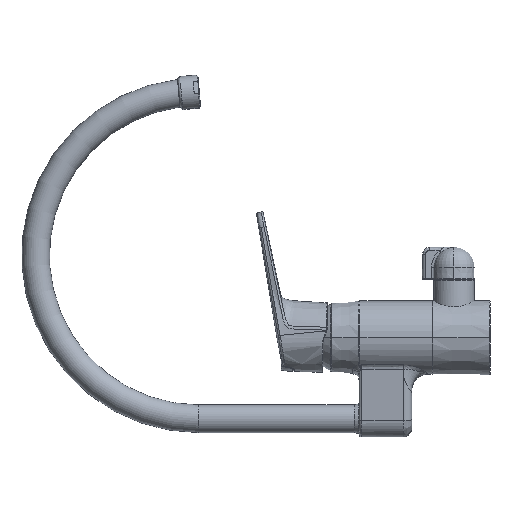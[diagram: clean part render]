
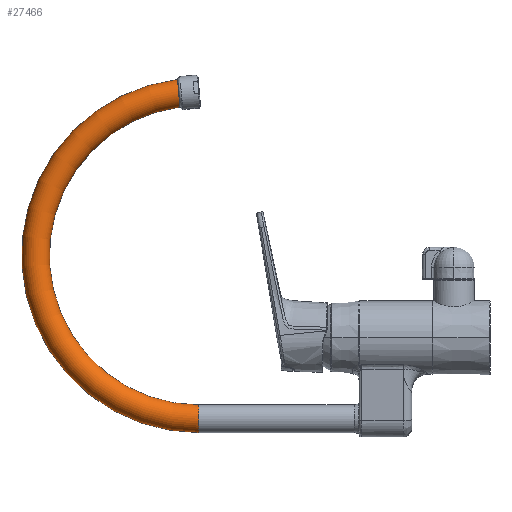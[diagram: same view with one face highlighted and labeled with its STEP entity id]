
A CAD part, left-side view. The second image highlights one B-rep face of the part: STEP entity #27466.
In plain terms, the highlighted toroidal (fillet/blend) face has major radius 118 mm and minor radius 10 mm.
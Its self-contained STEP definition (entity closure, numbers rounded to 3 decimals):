
#95 = CARTESIAN_POINT ( 'NONE',  ( -417.089, 534.69, 695.5 ) ) ;
#121 = AXIS2_PLACEMENT_3D ( 'NONE', #27822, #25456, #11830 ) ;
#225 = FACE_OUTER_BOUND ( 'NONE', #20181, .T. ) ;
#520 = CARTESIAN_POINT ( 'NONE',  ( -420.985, 533.94, 686.919 ) ) ;
#613 = CARTESIAN_POINT ( 'NONE',  ( -418.937, 533.465, 681.495 ) ) ;
#907 = CARTESIAN_POINT ( 'NONE',  ( -414.524, 533.181, 678.246 ) ) ;
#1713 = EDGE_CURVE ( 'NONE', #7960, #18032, #11607, .T. ) ;
#2371 = CARTESIAN_POINT ( 'NONE',  ( -411.64, 534.868, 697.529 ) ) ;
#3401 = CARTESIAN_POINT ( 'NONE',  ( -410.986, 519.378, 462.486 ) ) ;
#3455 = DIRECTION ( 'NONE',  ( 0., 0., 1. ) ) ;
#5055 = CARTESIAN_POINT ( 'NONE',  ( -420.459, 533.716, 684.367 ) ) ;
#5148 = CARTESIAN_POINT ( 'NONE',  ( -420.649, 533.771, 684.991 ) ) ;
#5253 = CARTESIAN_POINT ( 'NONE',  ( -411.312, 533.125, 677.607 ) ) ;
#5341 = CARTESIAN_POINT ( 'NONE',  ( -410.986, 519.378, 452.486 ) ) ;
#5448 = CARTESIAN_POINT ( 'NONE',  ( -413.583, 533.154, 677.944 ) ) ;
#5843 = DIRECTION ( 'NONE',  ( -1., 0., 0. ) ) ;
#6628 = CARTESIAN_POINT ( 'NONE',  ( -420.986, 534.053, 688.219 ) ) ;
#6813 = CARTESIAN_POINT ( 'NONE',  ( -416.276, 534.738, 696.042 ) ) ;
#7199 = CARTESIAN_POINT ( 'NONE',  ( -412.296, 534.862, 697.464 ) ) ;
#7329 = CARTESIAN_POINT ( 'NONE',  ( -412.293, 533.132, 677.687 ) ) ;
#7519 = CARTESIAN_POINT ( 'NONE',  ( -412.62, 533.136, 677.736 ) ) ;
#7617 = CARTESIAN_POINT ( 'NONE',  ( -419.962, 533.611, 683.169 ) ) ;
#7725 = CARTESIAN_POINT ( 'NONE',  ( -417.833, 533.361, 680.304 ) ) ;
#7960 = VERTEX_POINT ( 'NONE', #8208 ) ;
#8159 = ORIENTED_EDGE ( 'NONE', *, *, #17526, .F. ) ;
#8208 = CARTESIAN_POINT ( 'NONE',  ( -410.986, 534.869, 697.545 ) ) ;
#8880 = CARTESIAN_POINT ( 'NONE',  ( -420.103, 534.357, 691.685 ) ) ;
#9064 = CARTESIAN_POINT ( 'NONE',  ( -414.208, 534.825, 697.036 ) ) ;
#9129 = CIRCLE ( 'NONE', #18799, 10. ) ;
#9255 = CARTESIAN_POINT ( 'NONE',  ( -415.117, 534.792, 696.661 ) ) ;
#9348 = CARTESIAN_POINT ( 'NONE',  ( -415.996, 534.752, 696.21 ) ) ;
#9453 = CARTESIAN_POINT ( 'NONE',  ( -415.417, 534.779, 696.519 ) ) ;
#9493 = CARTESIAN_POINT ( 'NONE',  ( -410.986, 533.125, 677.607 ) ) ;
#9586 = CARTESIAN_POINT ( 'NONE',  ( -418.523, 533.421, 680.993 ) ) ;
#9615 = EDGE_CURVE ( 'NONE', #21097, #11880, #16252, .T. ) ;
#9873 = DIRECTION ( 'NONE',  ( 0., 0., 1. ) ) ;
#10060 = ORIENTED_EDGE ( 'NONE', *, *, #1713, .T. ) ;
#10554 = ORIENTED_EDGE ( 'NONE', *, *, #9615, .T. ) ;
#11524 = CARTESIAN_POINT ( 'NONE',  ( -411.312, 534.869, 697.545 ) ) ;
#11607 = CIRCLE ( 'NONE', #27948, 128. ) ;
#11621 = CARTESIAN_POINT ( 'NONE',  ( -413.585, 534.841, 697.224 ) ) ;
#11755 = CARTESIAN_POINT ( 'NONE',  ( -420.24, 533.663, 683.756 ) ) ;
#11830 = DIRECTION ( 'NONE',  ( 0., -1., 0. ) ) ;
#11880 = VERTEX_POINT ( 'NONE', #23692 ) ;
#11918 = ORIENTED_EDGE ( 'NONE', *, *, #16905, .T. ) ;
#12050 = CARTESIAN_POINT ( 'NONE',  ( -416.818, 533.288, 679.472 ) ) ;
#12441 = B_SPLINE_CURVE_WITH_KNOTS ( 'NONE', 3,
 ( #13147, #6628, #15426, #22418, #24494, #8880, #13239, #29037, #24675, #22982, #16169, #27406, #95, #6813, #9348, #9453, #9255, #9064, #11621, #20706, #7199, #2371, #11524, #25045 ),
 .UNSPECIFIED., .F., .F.,
 ( 4, 2, 2, 2, 2, 2, 2, 2, 2, 2, 2, 4 ),
 ( 0.012, 0.014, 0.016, 0.017, 0.018, 0.02, 0.022, 0.023, 0.024, 0.026, 0.027, 0.028 ),
 .UNSPECIFIED. ) ;
#13147 = CARTESIAN_POINT ( 'NONE',  ( -420.986, 533.996, 687.569 ) ) ;
#13239 = CARTESIAN_POINT ( 'NONE',  ( -419.961, 534.383, 691.984 ) ) ;
#14043 = CARTESIAN_POINT ( 'NONE',  ( -420.922, 533.883, 686.274 ) ) ;
#14330 = CARTESIAN_POINT ( 'NONE',  ( -420.73, 533.799, 685.311 ) ) ;
#14810 = CARTESIAN_POINT ( 'NONE',  ( -410.986, 519.378, 570.486 ) ) ;
#14928 = CARTESIAN_POINT ( 'NONE',  ( -410.986, 519.378, 570.486 ) ) ;
#15151 = VERTEX_POINT ( 'NONE', #3401 ) ;
#15426 = CARTESIAN_POINT ( 'NONE',  ( -420.922, 534.111, 688.88 ) ) ;
#15437 = ORIENTED_EDGE ( 'NONE', *, *, #17129, .F. ) ;
#16169 = CARTESIAN_POINT ( 'NONE',  ( -418.528, 534.573, 694.156 ) ) ;
#16252 = B_SPLINE_CURVE_WITH_KNOTS ( 'NONE', 3,
 ( #9493, #5253, #20845, #7329, #7519, #18984, #5448, #18877, #907, #16393, #25280, #12050, #25380, #18688, #7725, #9586, #613, #25669, #27841, #7617, #11755, #5055, #5148, #14330, #14043, #520, #16494 ),
 .UNSPECIFIED., .F., .F.,
 ( 4, 2, 2, 2, 2, 2, 2, 2, 2, 2, 1, 2, 2, 4 ),
 ( 0.059, 0.06, 0.061, 0.062, 0.063, 0.065, 0.066, 0.067, 0.069, 0.07, 0.071, 0.072, 0.073, 0.075 ),
 .UNSPECIFIED. ) ;
#16297 = DIRECTION ( 'NONE',  ( 0., -1., 0. ) ) ;
#16393 = CARTESIAN_POINT ( 'NONE',  ( -415.43, 533.214, 678.622 ) ) ;
#16494 = CARTESIAN_POINT ( 'NONE',  ( -420.986, 533.996, 687.569 ) ) ;
#16905 = EDGE_CURVE ( 'NONE', #11880, #7960, #12441, .T. ) ;
#16984 = DIRECTION ( 'NONE',  ( -1., 0., 0. ) ) ;
#17129 = EDGE_CURVE ( 'NONE', #15151, #18032, #9129, .T. ) ;
#17526 = EDGE_CURVE ( 'NONE', #21097, #15151, #29280, .T. ) ;
#18032 = VERTEX_POINT ( 'NONE', #20935 ) ;
#18688 = CARTESIAN_POINT ( 'NONE',  ( -417.591, 533.342, 680.084 ) ) ;
#18799 = AXIS2_PLACEMENT_3D ( 'NONE', #5341, #16297, #9873 ) ;
#18877 = CARTESIAN_POINT ( 'NONE',  ( -414.212, 533.171, 678.135 ) ) ;
#18984 = CARTESIAN_POINT ( 'NONE',  ( -413.264, 533.147, 677.864 ) ) ;
#19076 = DIRECTION ( 'NONE',  ( 0., 0., 1. ) ) ;
#20181 = EDGE_LOOP ( 'NONE', ( #11918, #10060, #15437, #8159, #10554 ) ) ;
#20706 = CARTESIAN_POINT ( 'NONE',  ( -412.622, 534.858, 697.416 ) ) ;
#20845 = CARTESIAN_POINT ( 'NONE',  ( -411.638, 533.126, 677.623 ) ) ;
#20935 = CARTESIAN_POINT ( 'NONE',  ( -410.986, 519.378, 442.486 ) ) ;
#21097 = VERTEX_POINT ( 'NONE', #23332 ) ;
#22145 = TOROIDAL_SURFACE ( 'NONE', #121, 118., 10. ) ;
#22418 = CARTESIAN_POINT ( 'NONE',  ( -420.667, 534.223, 690.158 ) ) ;
#22982 = CARTESIAN_POINT ( 'NONE',  ( -418.941, 534.528, 693.651 ) ) ;
#23332 = CARTESIAN_POINT ( 'NONE',  ( -410.986, 533.125, 677.607 ) ) ;
#23692 = CARTESIAN_POINT ( 'NONE',  ( -420.986, 533.996, 687.569 ) ) ;
#24494 = CARTESIAN_POINT ( 'NONE',  ( -420.478, 534.277, 690.779 ) ) ;
#24675 = CARTESIAN_POINT ( 'NONE',  ( -419.484, 534.458, 692.841 ) ) ;
#25045 = CARTESIAN_POINT ( 'NONE',  ( -410.986, 534.869, 697.545 ) ) ;
#25280 = CARTESIAN_POINT ( 'NONE',  ( -416.003, 533.24, 678.928 ) ) ;
#25380 = CARTESIAN_POINT ( 'NONE',  ( -417.083, 533.305, 679.668 ) ) ;
#25397 = AXIS2_PLACEMENT_3D ( 'NONE', #14928, #5843, #19076 ) ;
#25456 = DIRECTION ( 'NONE',  ( -1., 0., 0. ) ) ;
#25669 = CARTESIAN_POINT ( 'NONE',  ( -419.484, 533.536, 682.312 ) ) ;
#27406 = CARTESIAN_POINT ( 'NONE',  ( -417.594, 534.654, 695.088 ) ) ;
#27466 = ADVANCED_FACE ( 'NONE', ( #225 ), #22145, .T. ) ;
#27822 = CARTESIAN_POINT ( 'NONE',  ( -410.986, 519.378, 570.486 ) ) ;
#27841 = CARTESIAN_POINT ( 'NONE',  ( -419.654, 533.561, 682.595 ) ) ;
#27948 = AXIS2_PLACEMENT_3D ( 'NONE', #14810, #16984, #3455 ) ;
#29037 = CARTESIAN_POINT ( 'NONE',  ( -419.652, 534.433, 692.562 ) ) ;
#29280 = CIRCLE ( 'NONE', #25397, 108. ) ;
